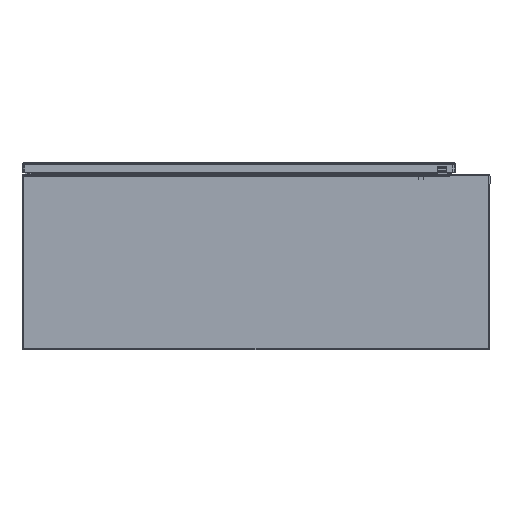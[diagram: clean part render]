
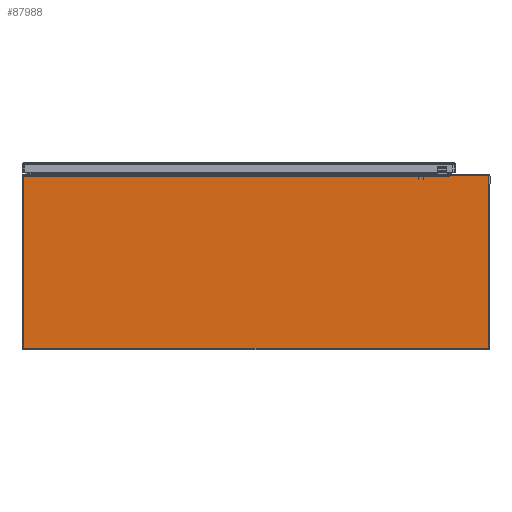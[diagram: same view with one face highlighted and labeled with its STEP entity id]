
A CAD part, front view. The second image highlights one B-rep face of the part: STEP entity #87988.
In plain terms, the highlighted planar face has unit normal (0, -1, 0) as drawn and (0, 0, 1) by its records, which use the part's own axes.
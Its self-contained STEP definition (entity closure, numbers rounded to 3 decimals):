
#27478 = CARTESIAN_POINT ( 'NONE',  ( -15.131, 11.763, 0.072 ) ) ;
#27480 = CARTESIAN_POINT ( 'NONE',  ( 13.991, 11.763, 0.072 ) ) ;
#27516 = CARTESIAN_POINT ( 'NONE',  ( 13.991, 11.849, 0.072 ) ) ;
#27522 = CARTESIAN_POINT ( 'NONE',  ( -15.131, 0.102, 0.072 ) ) ;
#27525 = CARTESIAN_POINT ( 'NONE',  ( 16.669, 0.102, 0.072 ) ) ;
#27527 = CARTESIAN_POINT ( 'NONE',  ( 16.669, 11.747, 0.072 ) ) ;
#27529 = CARTESIAN_POINT ( 'NONE',  ( 16.567, 11.849, 0.072 ) ) ;
#27532 = CARTESIAN_POINT ( 'NONE',  ( -15.029, 0., 0.072 ) ) ;
#27535 = CARTESIAN_POINT ( 'NONE',  ( 16.567, 0., 0.072 ) ) ;
#35408 = ORIENTED_EDGE ( 'NONE', *, *, #88607, .T. ) ;
#35409 = ORIENTED_EDGE ( 'NONE', *, *, #88606, .T. ) ;
#35410 = ORIENTED_EDGE ( 'NONE', *, *, #88595, .F. ) ;
#35411 = ORIENTED_EDGE ( 'NONE', *, *, #88600, .T. ) ;
#35412 = ORIENTED_EDGE ( 'NONE', *, *, #88570, .T. ) ;
#35413 = ORIENTED_EDGE ( 'NONE', *, *, #88584, .T. ) ;
#35414 = ORIENTED_EDGE ( 'NONE', *, *, #88602, .T. ) ;
#35415 = ORIENTED_EDGE ( 'NONE', *, *, #88609, .T. ) ;
#35416 = ORIENTED_EDGE ( 'NONE', *, *, #88608, .T. ) ;
#45451 = VERTEX_POINT ( 'NONE', #27478 ) ;
#45452 = VERTEX_POINT ( 'NONE', #27480 ) ;
#45466 = VERTEX_POINT ( 'NONE', #27516 ) ;
#45468 = VERTEX_POINT ( 'NONE', #27522 ) ;
#45469 = VERTEX_POINT ( 'NONE', #27525 ) ;
#45470 = VERTEX_POINT ( 'NONE', #27527 ) ;
#45471 = VERTEX_POINT ( 'NONE', #27529 ) ;
#45472 = VERTEX_POINT ( 'NONE', #27532 ) ;
#45473 = VERTEX_POINT ( 'NONE', #27535 ) ;
#53397 = LINE ( 'NONE', #99554, #53403 ) ;
#53403 = VECTOR ( 'NONE', #99568, 39.37 ) ;
#53418 = LINE ( 'NONE', #99609, #53419 ) ;
#53419 = VECTOR ( 'NONE', #99610, 39.37 ) ;
#53439 = LINE ( 'NONE', #99638, #53440 ) ;
#53440 = VECTOR ( 'NONE', #99639, 39.37 ) ;
#53448 = VECTOR ( 'NONE', #99666, 39.37 ) ;
#53449 = LINE ( 'NONE', #99648, #53450 ) ;
#53450 = VECTOR ( 'NONE', #99649, 39.37 ) ;
#53453 = LINE ( 'NONE', #99665, #53448 ) ;
#53454 = CIRCLE ( 'NONE', #62172, 0.102 ) ;
#53460 = LINE ( 'NONE', #99669, #53461 ) ;
#53461 = VECTOR ( 'NONE', #99670, 39.37 ) ;
#53462 = CIRCLE ( 'NONE', #62171, 0.102 ) ;
#53464 = CIRCLE ( 'NONE', #62175, 0.102 ) ;
#59570 = FACE_OUTER_BOUND ( 'NONE', #65109, .T. ) ;
#62018 = AXIS2_PLACEMENT_3D ( 'NONE', #69246, #73935, #73936 ) ;
#62171 = AXIS2_PLACEMENT_3D ( 'NONE', #99661, #99663, #99664 ) ;
#62172 = AXIS2_PLACEMENT_3D ( 'NONE', #99646, #99652, #99653 ) ;
#62175 = AXIS2_PLACEMENT_3D ( 'NONE', #99658, #99667, #99668 ) ;
#65109 = EDGE_LOOP ( 'NONE', ( #35408, #35409, #35410, #35411, #35412, #35413, #35414, #35415, #35416 ) ) ;
#69239 = PLANE ( 'NONE',  #62018 ) ;
#69246 = CARTESIAN_POINT ( 'NONE',  ( -15.131, 11.925, 0.072 ) ) ;
#73935 = DIRECTION ( 'NONE',  ( 0., 0., 1. ) ) ;
#73936 = DIRECTION ( 'NONE',  ( 1., 0., 0. ) ) ;
#87988 = ADVANCED_FACE ( 'NONE', ( #59570 ), #69239, .T. ) ;
#88570 = EDGE_CURVE ( 'NONE', #45452, #45451, #53397, .T. ) ;
#88584 = EDGE_CURVE ( 'NONE', #45451, #45468, #53418, .T. ) ;
#88595 = EDGE_CURVE ( 'NONE', #45466, #45471, #53439, .T. ) ;
#88600 = EDGE_CURVE ( 'NONE', #45466, #45452, #53449, .T. ) ;
#88602 = EDGE_CURVE ( 'NONE', #45468, #45472, #53454, .T. ) ;
#88606 = EDGE_CURVE ( 'NONE', #45470, #45471, #53462, .T. ) ;
#88607 = EDGE_CURVE ( 'NONE', #45469, #45470, #53453, .T. ) ;
#88608 = EDGE_CURVE ( 'NONE', #45473, #45469, #53464, .T. ) ;
#88609 = EDGE_CURVE ( 'NONE', #45472, #45473, #53460, .T. ) ;
#99554 = CARTESIAN_POINT ( 'NONE',  ( 13.991, 11.763, 0.072 ) ) ;
#99568 = DIRECTION ( 'NONE',  ( -1., 0., 0. ) ) ;
#99609 = CARTESIAN_POINT ( 'NONE',  ( -15.131, 11.925, 0.072 ) ) ;
#99610 = DIRECTION ( 'NONE',  ( 0., -1., 0. ) ) ;
#99638 = CARTESIAN_POINT ( 'NONE',  ( 16.669, 11.849, 0.072 ) ) ;
#99639 = DIRECTION ( 'NONE',  ( 1., 0., 0. ) ) ;
#99646 = CARTESIAN_POINT ( 'NONE',  ( -15.029, 0.102, 0.072 ) ) ;
#99648 = CARTESIAN_POINT ( 'NONE',  ( 13.991, 11.925, 0.072 ) ) ;
#99649 = DIRECTION ( 'NONE',  ( 0., -1., 0. ) ) ;
#99652 = DIRECTION ( 'NONE',  ( 0., 0., 1. ) ) ;
#99653 = DIRECTION ( 'NONE',  ( 1., 0., 0. ) ) ;
#99658 = CARTESIAN_POINT ( 'NONE',  ( 16.567, 0.102, 0.072 ) ) ;
#99661 = CARTESIAN_POINT ( 'NONE',  ( 16.567, 11.747, 0.072 ) ) ;
#99663 = DIRECTION ( 'NONE',  ( 0., 0., 1. ) ) ;
#99664 = DIRECTION ( 'NONE',  ( 1., 0., 0. ) ) ;
#99665 = CARTESIAN_POINT ( 'NONE',  ( 16.669, 11.925, 0.072 ) ) ;
#99666 = DIRECTION ( 'NONE',  ( 0., 1., 0. ) ) ;
#99667 = DIRECTION ( 'NONE',  ( 0., 0., 1. ) ) ;
#99668 = DIRECTION ( 'NONE',  ( 1., 0., 0. ) ) ;
#99669 = CARTESIAN_POINT ( 'NONE',  ( -15.131, 0., 0.072 ) ) ;
#99670 = DIRECTION ( 'NONE',  ( 1., 0., 0. ) ) ;
